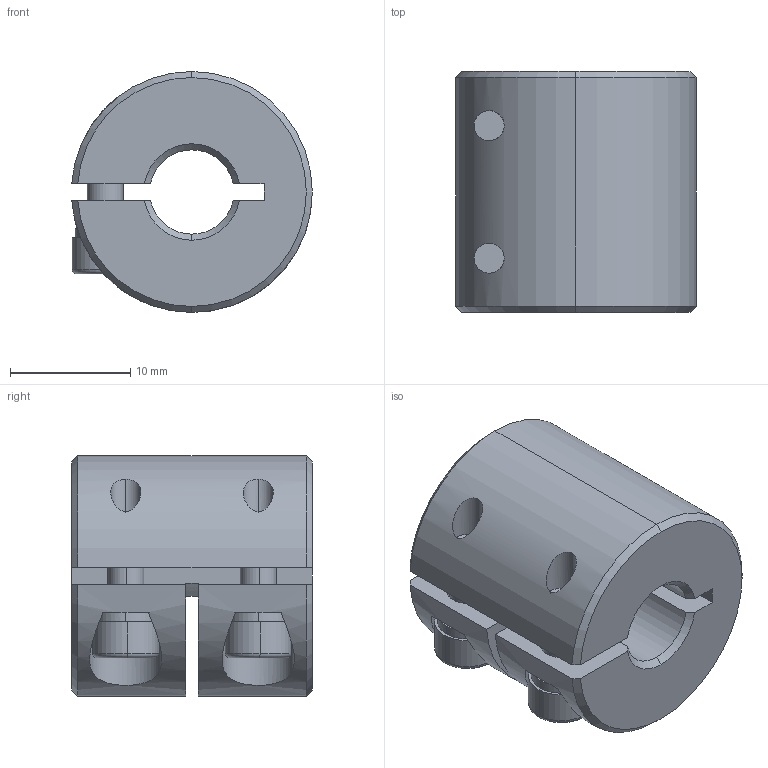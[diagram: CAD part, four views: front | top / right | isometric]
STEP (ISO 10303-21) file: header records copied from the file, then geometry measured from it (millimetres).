
FILE_DESCRIPTION (( 'STEP AP203' ), '1' );
FILE_NAME ('LL-B-D20L20-7-10.STEP', '2021-11-03T05:29:37', ( '' ), ( '' ), 'SwSTEP 2.0', 'SolidWorks 2018', '' );
FILE_SCHEMA (( 'CONFIG_CONTROL_DESIGN' ));
Length unit declared in the file: millimetre
Products named in the file (1): LL-B-D20L20-7-10
Bounding box: 19.98 x 20 x 20 mm (x, y, z)
Volume: 4667.9 mm3; surface area: 3112.3 mm2
Topology: 1 solids, 1 shells, 115 faces, 298 edges, 187 vertices
Faces by surface type: plane 53, cylinder 42, cone 16, torus 4
Entity records: 3764 total; most frequent: CARTESIAN_POINT 831, DIRECTION 625, ORIENTED_EDGE 588, EDGE_CURVE 294, AXIS2_PLACEMENT_3D 241, VERTEX_POINT 187, LINE 143, VECTOR 143
